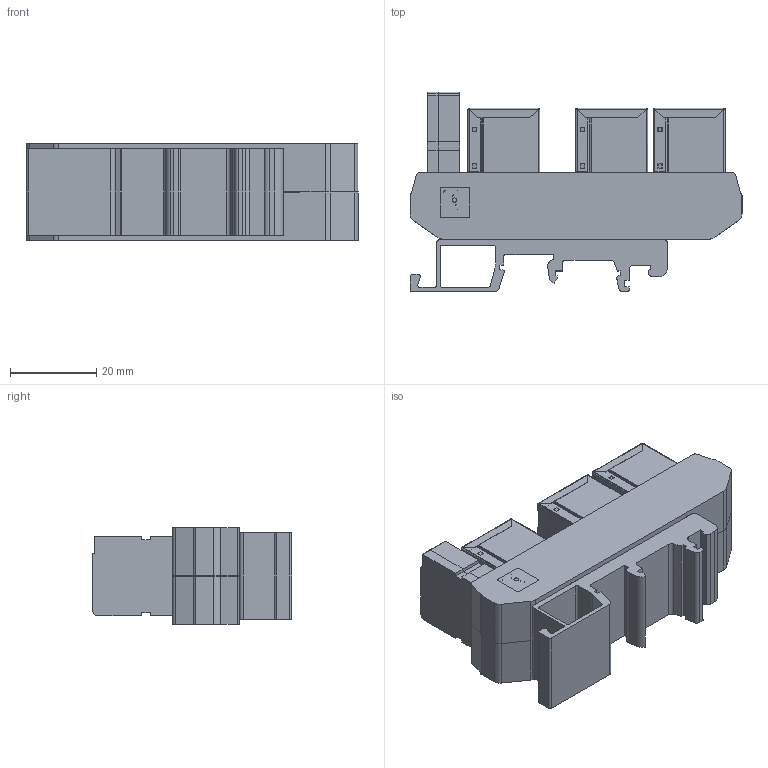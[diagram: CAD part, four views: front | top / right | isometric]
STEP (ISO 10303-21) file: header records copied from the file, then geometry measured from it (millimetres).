
FILE_DESCRIPTION (( 'STEP AP214' ), '1' );
FILE_NAME ('朊.蚡攣.01.STEP', '2018-12-12T12:46:50', ( 'root' ), ( '' ), 'SwSTEP 2.0', 'SolidWorks 2015', '' );
FILE_SCHEMA (( 'AUTOMOTIVE_DESIGN' ));
Length unit declared in the file: millimetre
Products named in the file (13): FRONT 2,5-V SA 5 - 1700037; D-FRONT 2,5-V-O.Z. - 1700011; UMK20; UMK-SE 11,25-1 - 2970442; UMK-FE - 2970031; 朊.蚡攣.01; ÌÒ.ÓÇÅË.01.Ïëàòà; DS1134-07_WR-MJ 615008138221; Pin1; Pin2; Insulator_2; Insulator; Shielding
Assembly tree (21 placements, depth 3):
  朊.蚡攣.01
    UMK20
      UMK-FE - 2970031
      UMK-SE 11,25-1 - 2970442  x2
    D-FRONT 2,5-V-O.Z. - 1700011
    FRONT 2,5-V SA 5 - 1700037
    DS1134-07_WR-MJ 615008138221  x3
      Shielding
      Insulator
      Insulator_2
      Pin2
      Pin1
    ÌÒ.ÓÇÅË.01.Ïëàòà
Bounding box: 77 x 46.27 x 22.4 mm (x, y, z)
Volume: 19913.9 mm3; surface area: 41695.6 mm2
Topology: 37 solids, 51 shells, 3016 faces, 8083 edges, 5156 vertices
Faces by surface type: plane 2162, cylinder 680, bspline 116, cone 46, torus 12
Full cylindrical faces by diameter (mm): 0.457 x1, 0.9 x6, 1 x24, 1.058 x2, 1.2 x2, 1.4 x2, 1.5 x5, 1.7 x6, 2 x1, 3 x8, 3.1 x4, 3.5 x6, 3.55 x1, 3.65 x1
Entity records: 48990 total; most frequent: CARTESIAN_POINT 8402, ORIENTED_EDGE 5822, DIRECTION 5636, EDGE_CURVE 2921, VECTOR 2210, LINE 2210, VERTEX_POINT 1945, AXIS2_PLACEMENT_3D 1713
